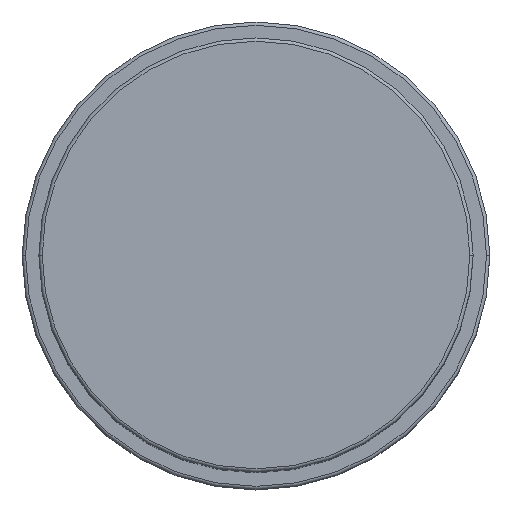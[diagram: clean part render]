
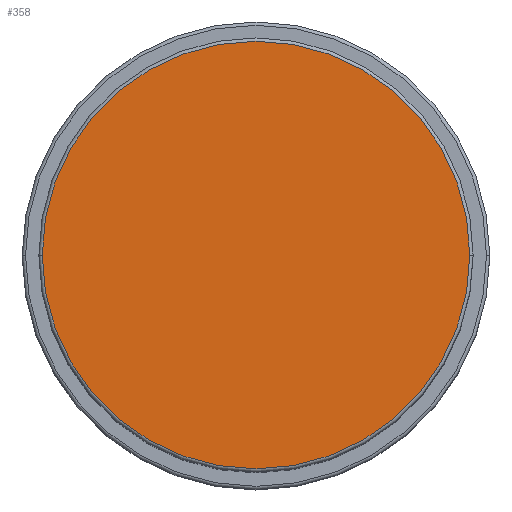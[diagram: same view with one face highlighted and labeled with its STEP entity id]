
A CAD part, top view. The second image highlights one B-rep face of the part: STEP entity #358.
In plain terms, the highlighted planar face has unit normal (0, 0, 1).
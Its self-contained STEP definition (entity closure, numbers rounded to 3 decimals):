
#198 = VERTEX_POINT ( 'NONE', #2028 ) ;
#212 = DIRECTION ( 'NONE',  ( 0., 0., 1. ) ) ;
#248 = EDGE_LOOP ( 'NONE', ( #1373, #1055 ) ) ;
#358 = ADVANCED_FACE ( 'NONE', ( #1164 ), #1008, .T. ) ;
#427 = DIRECTION ( 'NONE',  ( 1., 0., 0. ) ) ;
#432 = CIRCLE ( 'NONE', #1752, 32. ) ;
#443 = DIRECTION ( 'NONE',  ( 0., 0., 1. ) ) ;
#577 = DIRECTION ( 'NONE',  ( 0., 0., 1. ) ) ;
#643 = DIRECTION ( 'NONE',  ( 1., 0., 0. ) ) ;
#807 = CARTESIAN_POINT ( 'NONE',  ( 32., 0., 97. ) ) ;
#920 = CARTESIAN_POINT ( 'NONE',  ( 0., 0., 97. ) ) ;
#932 = EDGE_CURVE ( 'NONE', #1252, #198, #432, .T. ) ;
#1008 = PLANE ( 'NONE',  #1015 ) ;
#1015 = AXIS2_PLACEMENT_3D ( 'NONE', #1166, #212, #1945 ) ;
#1055 = ORIENTED_EDGE ( 'NONE', *, *, #1179, .T. ) ;
#1107 = AXIS2_PLACEMENT_3D ( 'NONE', #1244, #443, #643 ) ;
#1164 = FACE_OUTER_BOUND ( 'NONE', #248, .T. ) ;
#1166 = CARTESIAN_POINT ( 'NONE',  ( 0., 0., 97. ) ) ;
#1179 = EDGE_CURVE ( 'NONE', #198, #1252, #1380, .T. ) ;
#1244 = CARTESIAN_POINT ( 'NONE',  ( 0., 0., 97. ) ) ;
#1252 = VERTEX_POINT ( 'NONE', #807 ) ;
#1373 = ORIENTED_EDGE ( 'NONE', *, *, #932, .T. ) ;
#1380 = CIRCLE ( 'NONE', #1107, 32. ) ;
#1752 = AXIS2_PLACEMENT_3D ( 'NONE', #920, #577, #427 ) ;
#1945 = DIRECTION ( 'NONE',  ( 1., 0., 0. ) ) ;
#2028 = CARTESIAN_POINT ( 'NONE',  ( -32., 0., 97. ) ) ;
